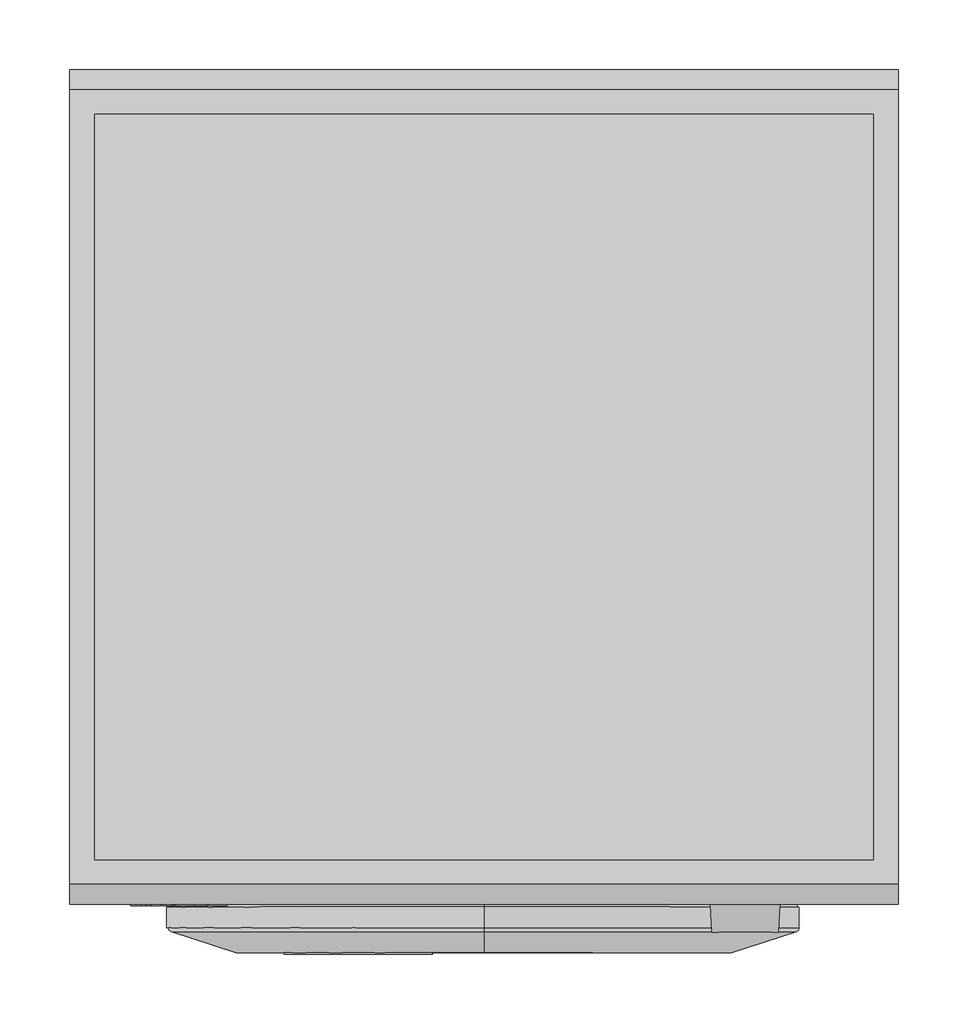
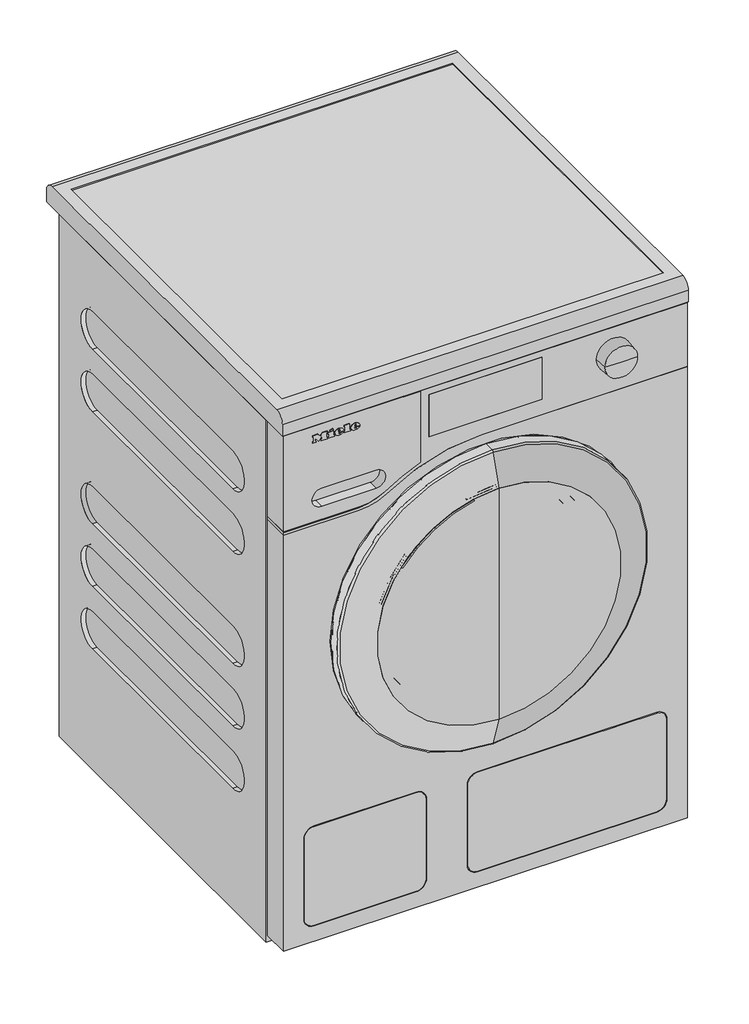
# Not in any storey: 1 proxy.
"""IFC4 building model written with IfcOpenShell, lengths in millimetres."""

from ifc_helpers import new_model, si_unit, origin, place, context, project, spatial, transform, mapped, element, save
from components import specialty_equipment_5d1bda56, specialty_equipment_07e524df

model = new_model("IFC4")

# Units and contexts
model_context = context("Model", 3, world=origin())
ifc_project = project(units=[si_unit("LENGTHUNIT", "METRE", prefix="MILLI")], contexts=[model_context])

# Site, building
site = spatial("IfcSite", under=ifc_project)
building = spatial("IfcBuilding", under=site)

# Proxy
placement = place(None, origin())
specialty_equipment_shape = specialty_equipment_5d1bda56(model_context)
specialty_equipment_2_shape = specialty_equipment_07e524df(model_context)
element("IfcBuildingElementProxy", 1, Name="12437440_A_WCB680WPS_LW : 11CB6803_A_12437440_WCB680WPS_LW", ObjectType="12437440_A_WCB680WPS_LW : 11CB6803_A_12437440_WCB680WPS_LW", at=placement, inside=building, context=model_context, shape_type="MappedRepresentation", body=[
    mapped(specialty_equipment_shape, transform((0.0, 0.0, 0.0), x_axis=(1.0, 0.0, 0.0), y_axis=(0.0, 1.0, 0.0), z_axis=(0.0, 0.0, 1.0))),
    mapped(specialty_equipment_2_shape, transform((0.0, 0.0, 0.0), x_axis=(1.0, 0.0, 0.0), y_axis=(0.0, 1.0, 0.0), z_axis=(0.0, 0.0, 1.0))),
])

save(model, "model.ifc")
